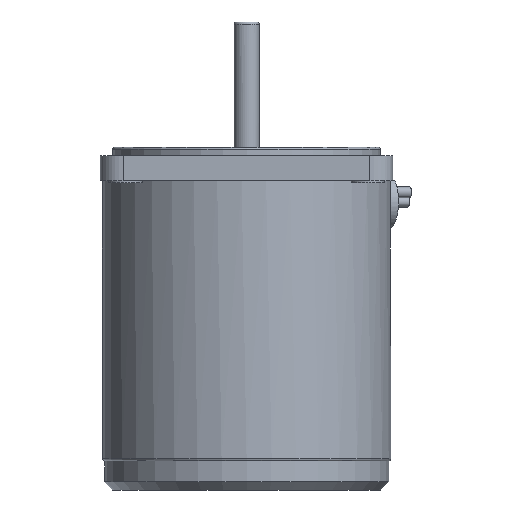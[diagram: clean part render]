
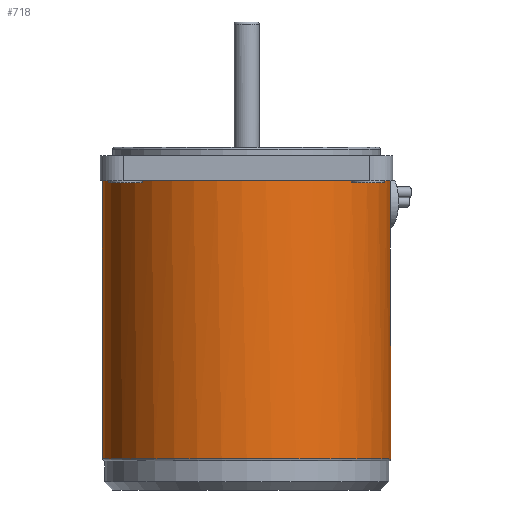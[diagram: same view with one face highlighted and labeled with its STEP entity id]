
A CAD part, front view. The second image highlights one B-rep face of the part: STEP entity #718.
In plain terms, the highlighted cylindrical face has radius 34.5 mm (diameter 69 mm), a full revolution.
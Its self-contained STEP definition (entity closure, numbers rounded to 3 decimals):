
#590=CARTESIAN_POINT('',(30.053,16.944,74.));
#591=VERTEX_POINT('',#590);
#592=CARTESIAN_POINT('',(33.231,9.269,74.));
#593=VERTEX_POINT('',#592);
#594=CARTESIAN_POINT('',(30.053,16.944,74.));
#595=CARTESIAN_POINT('',(29.976,17.079,73.872));
#596=CARTESIAN_POINT('',(29.903,17.208,73.738));
#597=CARTESIAN_POINT('',(29.832,17.328,73.599));
#598=CARTESIAN_POINT('',(29.745,17.479,73.427));
#599=CARTESIAN_POINT('',(29.659,17.624,73.24));
#600=CARTESIAN_POINT('',(29.577,17.761,73.042));
#601=CARTESIAN_POINT('',(29.35,18.139,72.493));
#602=CARTESIAN_POINT('',(29.155,18.447,71.852));
#603=CARTESIAN_POINT('',(29.023,18.653,71.172));
#604=CARTESIAN_POINT('',(28.928,18.8,70.686));
#605=CARTESIAN_POINT('',(28.865,18.896,70.18));
#606=CARTESIAN_POINT('',(28.836,18.941,69.681));
#607=CARTESIAN_POINT('',(28.821,18.963,69.436));
#608=CARTESIAN_POINT('',(28.815,18.973,69.193));
#609=CARTESIAN_POINT('',(28.816,18.971,68.954));
#610=CARTESIAN_POINT('',(28.818,18.967,68.271));
#611=CARTESIAN_POINT('',(28.885,18.868,67.554));
#612=CARTESIAN_POINT('',(29.014,18.666,66.873));
#613=CARTESIAN_POINT('',(29.113,18.512,66.352));
#614=CARTESIAN_POINT('',(29.249,18.299,65.852));
#615=CARTESIAN_POINT('',(29.409,18.038,65.399));
#616=CARTESIAN_POINT('',(29.524,17.851,65.072));
#617=CARTESIAN_POINT('',(29.651,17.639,64.769));
#618=CARTESIAN_POINT('',(29.784,17.411,64.497));
#619=CARTESIAN_POINT('',(29.868,17.268,64.326));
#620=CARTESIAN_POINT('',(29.955,17.117,64.165));
#621=CARTESIAN_POINT('',(30.047,16.954,64.01));
#622=CARTESIAN_POINT('',(30.314,16.481,63.56));
#623=CARTESIAN_POINT('',(30.616,15.917,63.182));
#624=CARTESIAN_POINT('',(30.919,15.307,62.924));
#625=CARTESIAN_POINT('',(31.164,14.811,62.715));
#626=CARTESIAN_POINT('',(31.409,14.285,62.582));
#627=CARTESIAN_POINT('',(31.636,13.762,62.528));
#628=CARTESIAN_POINT('',(31.791,13.407,62.492));
#629=CARTESIAN_POINT('',(31.935,13.061,62.49));
#630=CARTESIAN_POINT('',(32.077,12.702,62.522));
#631=CARTESIAN_POINT('',(32.338,12.043,62.582));
#632=CARTESIAN_POINT('',(32.584,11.359,62.764));
#633=CARTESIAN_POINT('',(32.793,10.719,63.063));
#634=CARTESIAN_POINT('',(32.997,10.093,63.356));
#635=CARTESIAN_POINT('',(33.168,9.509,63.761));
#636=CARTESIAN_POINT('',(33.3,9.019,64.226));
#637=CARTESIAN_POINT('',(33.35,8.834,64.401));
#638=CARTESIAN_POINT('',(33.395,8.663,64.584));
#639=CARTESIAN_POINT('',(33.437,8.497,64.783));
#640=CARTESIAN_POINT('',(33.55,8.052,65.316));
#641=CARTESIAN_POINT('',(33.637,7.672,65.947));
#642=CARTESIAN_POINT('',(33.695,7.408,66.624));
#643=CARTESIAN_POINT('',(33.741,7.199,67.162));
#644=CARTESIAN_POINT('',(33.77,7.061,67.729));
#645=CARTESIAN_POINT('',(33.782,7.,68.289));
#646=CARTESIAN_POINT('',(33.789,6.97,68.563));
#647=CARTESIAN_POINT('',(33.791,6.958,68.833));
#648=CARTESIAN_POINT('',(33.79,6.962,69.102));
#649=CARTESIAN_POINT('',(33.788,6.972,69.786));
#650=CARTESIAN_POINT('',(33.763,7.096,70.504));
#651=CARTESIAN_POINT('',(33.711,7.337,71.183));
#652=CARTESIAN_POINT('',(33.671,7.522,71.707));
#653=CARTESIAN_POINT('',(33.614,7.776,72.209));
#654=CARTESIAN_POINT('',(33.54,8.08,72.662));
#655=CARTESIAN_POINT('',(33.498,8.258,72.928));
#656=CARTESIAN_POINT('',(33.449,8.453,73.176));
#657=CARTESIAN_POINT('',(33.396,8.659,73.405));
#658=CARTESIAN_POINT('',(33.351,8.831,73.596));
#659=CARTESIAN_POINT('',(33.303,9.01,73.773));
#660=CARTESIAN_POINT('',(33.25,9.204,73.943));
#661=CARTESIAN_POINT('',(33.244,9.226,73.962));
#662=CARTESIAN_POINT('',(33.238,9.247,73.981));
#663=CARTESIAN_POINT('',(33.231,9.269,74.0));
#664=B_SPLINE_CURVE_WITH_KNOTS('',3,(#594,#595,#596,#597,#598,#599,#600,#601,#602,#603,#604,#605,#606,#607,#608,#609,#610,#611,#612,#613,#614,#615,#616,#617,#618,#619,#620,#621,#622,#623,#624,#625,#626,#627,#628,#629,#630,#631,#632,#633,#634,#635,#636,#637,#638,#639,#640,#641,#642,#643,#644,#645,#646,#647,#648,#649,#650,#651,#652,#653,#654,#655,#656,#657,#658,#659,#660,#661,#662,#663),.UNSPECIFIED.,.F.,.U.,(4,3,3,3,3,3,3,3,3,3,3,3,3,3,3,3,3,3,3,3,3,3,3,4),(-2.514,-2.455,-2.382,-2.177,-2.031,-1.959,-1.755,-1.599,-1.486,-1.415,-1.209,-1.042,-0.929,-0.72,-0.517,-0.44,-0.234,-0.07,0.01,0.214,0.372,0.465,0.542,0.55),.UNSPECIFIED.);
#665=EDGE_CURVE('',#591,#593,#664,.T.);
#692=CARTESIAN_POINT('',(0.0,0.0,0.0));
#693=DIRECTION('',(0.0,0.0,1.0));
#694=DIRECTION('',(-1.0,0.0,0.0));
#695=AXIS2_PLACEMENT_3D('',#692,#693,#694);
#696=CYLINDRICAL_SURFACE('',#695,34.5);
#697=CARTESIAN_POINT('',(-34.5,0.,7.5));
#698=VERTEX_POINT('',#697);
#699=CARTESIAN_POINT('',(0.0,0.0,7.5));
#700=DIRECTION('',(0.0,0.0,-1.0));
#701=DIRECTION('',(1.0,0.0,0.0));
#702=AXIS2_PLACEMENT_3D('',#699,#700,#701);
#703=CIRCLE('',#702,34.5);
#704=EDGE_CURVE('',#698,#698,#703,.T.);
#705=ORIENTED_EDGE('',*,*,#704,.F.);
#706=EDGE_LOOP('',(#705));
#707=FACE_OUTER_BOUND('',#706,.T.);
#708=ORIENTED_EDGE('',*,*,#665,.T.);
#709=CARTESIAN_POINT('',(0.0,0.0,74.0));
#710=DIRECTION('',(0.0,0.0,-1.0));
#711=DIRECTION('',(-1.0,0.0,0.0));
#712=AXIS2_PLACEMENT_3D('',#709,#710,#711);
#713=CIRCLE('',#712,34.5);
#714=EDGE_CURVE('',#593,#591,#713,.T.);
#715=ORIENTED_EDGE('',*,*,#714,.T.);
#716=EDGE_LOOP('',(#708,#715));
#717=FACE_BOUND('',#716,.T.);
#718=ADVANCED_FACE('',(#707,#717),#696,.T.);
